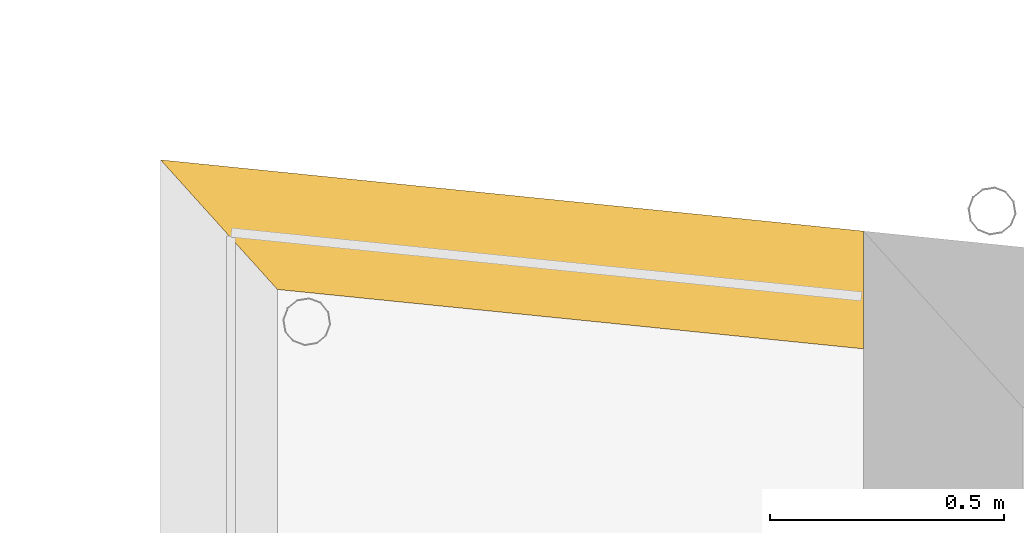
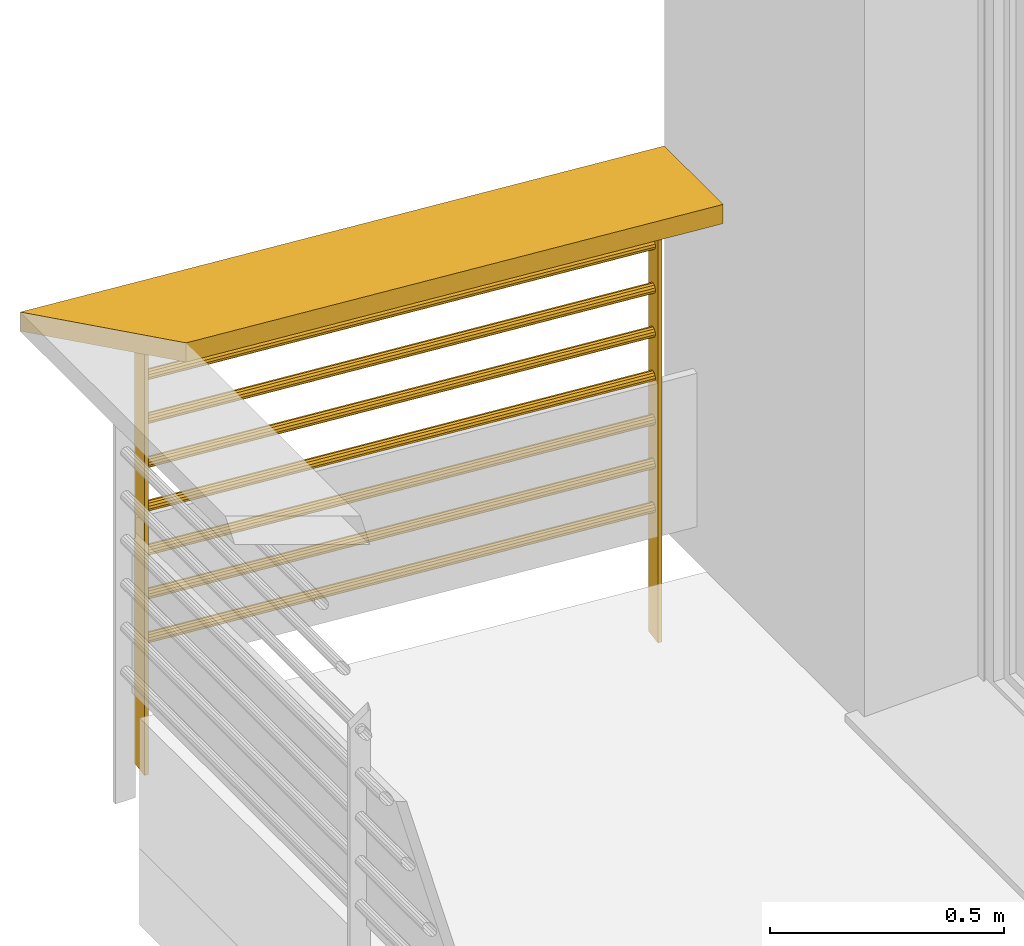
# One storey, part 120 of 171: 1 railing.
"""IFC2X3 building model written with IfcOpenShell, lengths in millimetres."""

from ifc_helpers import new_model, entity, si_unit, converted_unit, derived_unit, money_unit, direction, frame, origin_with_axes, place, context, subcontext, project, spatial, faceted_brep, type_object, element, save


model = new_model("IFC2X3")

# Units and contexts
model_context = context("Model", 3, precision=0.01, world=origin_with_axes(), true_north=direction((0.0, 1.0)))
body_context = subcontext(model_context, "Body", "Model", "MODEL_VIEW")
ifc_project = project(units=[si_unit("LENGTHUNIT", "METRE", prefix="MILLI"), si_unit("AREAUNIT", "SQUARE_METRE"), si_unit("VOLUMEUNIT", "CUBIC_METRE"), converted_unit("PLANEANGLEUNIT", "DEGREE", entity("IfcPlaneAngleMeasure", 0.0174532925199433), si_unit("PLANEANGLEUNIT", "RADIAN"), dimensions=[0, 0, 0, 0, 0, 0, 0]), money_unit("USD"), converted_unit("TIMEUNIT", "Year", entity("IfcTimeMeasure", 31557600.0), si_unit("TIMEUNIT", "SECOND"), dimensions=[0, 0, 1, 0, 0, 0, 0]), si_unit("MASSUNIT", "GRAM", prefix="KILO"), si_unit("THERMODYNAMICTEMPERATUREUNIT", "DEGREE_CELSIUS"), si_unit("LUMINOUSINTENSITYUNIT", "LUMEN"), si_unit("ENERGYUNIT", "JOULE", prefix="MEGA"), derived_unit("THERMALCONDUCTANCEUNIT", [(si_unit("POWERUNIT", "WATT"), 1), (si_unit("LENGTHUNIT", "METRE"), -1), (si_unit("THERMODYNAMICTEMPERATUREUNIT", "KELVIN"), -1)]), derived_unit("SPECIFICHEATCAPACITYUNIT", [(si_unit("ENERGYUNIT", "JOULE"), 1), (si_unit("MASSUNIT", "GRAM", prefix="KILO"), -1), (si_unit("THERMODYNAMICTEMPERATUREUNIT", "KELVIN"), -1)]), derived_unit("MASSDENSITYUNIT", [(si_unit("MASSUNIT", "GRAM", prefix="KILO"), 1), (si_unit("VOLUMEUNIT", "CUBIC_METRE"), -1)])], contexts=[model_context])

# Site, building, storey
site_placement = place(None, origin_with_axes())
site = spatial("IfcSite", under=ifc_project, at=site_placement, Name="Site", CompositionType="ELEMENT")
building_placement = place(site_placement, origin_with_axes())
building = spatial("IfcBuilding", under=site, at=building_placement, Name="Bâtiment", CompositionType="ELEMENT")
storey_placement = place(building_placement, frame((0.0, 0.0, 3000.0), z_axis=(0.0, 0.0, 1.0), x_axis=(1.0, 0.0, 0.0)))
storey = spatial("IfcBuildingStorey", under=building, at=storey_placement, Name="rdc", CompositionType="ELEMENT", Elevation=3000.0)

# Railing
railing_type = type_object("IfcRailingType", Name="Cadre avec câble 01 20", PredefinedType="NOTDEFINED")
railing_placement = place(storey_placement, frame((2218134.233344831, -604121.1147362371, 0.0), z_axis=(0.0, 0.0, 1.0), x_axis=(0.9949030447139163, -0.1008361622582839, 0.0)))
element("IfcRailing", 1, at=railing_placement, inside=storey, type_object=railing_type, Name="Obj.-002", PredefinedType="NOTDEFINED", context=body_context, shape_type="Brep", body=[
    faceted_brep([(-1244.140233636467, -125.0, 950.0), (-1519.948213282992, 125.0, 950.0), (-12.66909408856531, 125.0, 950.0), (12.66909408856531, -125.0, 950.0), (-1244.140233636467, -125.0, 1000.0), (-1519.948213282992, 125.0, 1000.0), (-12.66909408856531, 125.0, 1000.0), (12.66909408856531, -125.0, 1000.0)], [[[0, 1, 2, 3]], [[1, 0, 4, 5]], [[1, 5, 6, 2]], [[2, 6, 7, 3]], [[0, 3, 7, 4]], [[5, 4, 7, 6]]]),
    faceted_brep([(-84.99999999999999, -25.0, -176.0), (-84.99999999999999, -25.0, 950.0), (-95.0, -25.0, 950.0), (-95.0, -25.0, -176.0), (-84.99999999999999, 25.0, -176.0), (-84.99999999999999, 25.0, 950.0), (-95.0, 25.0, 950.0), (-95.0, 25.0, -176.0)], [[[0, 1, 2, 3]], [[4, 5, 1, 0]], [[1, 5, 6, 2]], [[3, 2, 6, 7]], [[0, 3, 7, 4]], [[7, 6, 5, 4]]]),
    faceted_brep([(-1287.04422345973, -25.0, -176.0), (-1287.04422345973, -25.0, 950.0), (-1297.044223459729, -25.0, 950.0), (-1297.044223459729, -25.0, -176.0), (-1287.04422345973, 25.0, -176.0), (-1287.04422345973, 25.0, 950.0), (-1297.044223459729, 25.0, 950.0), (-1297.044223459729, 25.0, -176.0)], [[[0, 1, 2, 3]], [[4, 5, 1, 0]], [[1, 5, 6, 2]], [[3, 2, 6, 7]], [[0, 3, 7, 4]], [[7, 6, 5, 4]]]),
    faceted_brep([(-95.0, 10.82531754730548, 156.25), (-1287.04422345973, 10.82531754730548, 156.2500000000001), (-1287.04422345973, 12.5, 162.5000000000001), (-95.0, 12.5, 162.5), (-95.0, 6.249999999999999, 151.6746824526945), (-1287.04422345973, 6.249999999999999, 151.6746824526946), (-1287.04422345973, 0.0, 150.0000000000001), (-1287.04422345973, -6.250000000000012, 151.6746824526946), (-1287.04422345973, -10.82531754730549, 156.2500000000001), (-1287.04422345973, -12.5, 162.5000000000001), (-1287.04422345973, -10.82531754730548, 168.7500000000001), (-1287.04422345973, -6.249999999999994, 173.3253175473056), (-1287.04422345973, 0.0, 175.0000000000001), (-1287.04422345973, 6.250000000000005, 173.3253175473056), (-1287.04422345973, 10.82531754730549, 168.7500000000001), (-95.0, 10.82531754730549, 168.75), (-95.0, 6.250000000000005, 173.3253175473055), (-95.0, 0.0, 175.0), (-95.0, -6.249999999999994, 173.3253175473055), (-95.0, -10.82531754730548, 168.75), (-95.0, -12.5, 162.5), (-95.0, -10.82531754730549, 156.25), (-95.0, -6.250000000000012, 151.6746824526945), (-95.0, 0.0, 150.0)], [[[0, 1, 2, 3]], [[4, 5, 1, 0]], [[1, 5, 6, 7, 8, 9, 10, 11, 12, 13, 14, 2]], [[3, 2, 14, 15]], [[15, 16, 17, 18, 19, 20, 21, 22, 23, 4, 0, 3]], [[23, 6, 5, 4]], [[22, 7, 6, 23]], [[21, 8, 7, 22]], [[20, 9, 8, 21]], [[19, 10, 9, 20]], [[18, 11, 10, 19]], [[17, 12, 11, 18]], [[16, 13, 12, 17]], [[15, 14, 13, 16]]]),
    faceted_brep([(-95.0, 10.82531754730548, 270.5357142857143), (-1287.04422345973, 10.82531754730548, 270.5357142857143), (-1287.04422345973, 12.5, 276.7857142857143), (-95.0, 12.5, 276.7857142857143), (-95.0, 6.249999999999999, 265.9603967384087), (-1287.04422345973, 6.249999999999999, 265.9603967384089), (-1287.04422345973, 0.0, 264.2857142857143), (-1287.04422345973, -6.250000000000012, 265.9603967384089), (-1287.04422345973, -10.82531754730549, 270.5357142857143), (-1287.04422345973, -12.5, 276.7857142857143), (-1287.04422345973, -10.82531754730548, 283.0357142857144), (-1287.04422345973, -6.249999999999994, 287.6110318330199), (-1287.04422345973, 0.0, 289.2857142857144), (-1287.04422345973, 6.250000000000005, 287.6110318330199), (-1287.04422345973, 10.82531754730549, 283.0357142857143), (-95.0, 10.82531754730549, 283.0357142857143), (-95.0, 6.250000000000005, 287.6110318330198), (-95.0, 0.0, 289.2857142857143), (-95.0, -6.249999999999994, 287.6110318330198), (-95.0, -10.82531754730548, 283.0357142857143), (-95.0, -12.5, 276.7857142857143), (-95.0, -10.82531754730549, 270.5357142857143), (-95.0, -6.250000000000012, 265.9603967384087), (-95.0, 0.0, 264.2857142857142)], [[[0, 1, 2, 3]], [[4, 5, 1, 0]], [[1, 5, 6, 7, 8, 9, 10, 11, 12, 13, 14, 2]], [[3, 2, 14, 15]], [[15, 16, 17, 18, 19, 20, 21, 22, 23, 4, 0, 3]], [[23, 6, 5, 4]], [[22, 7, 6, 23]], [[21, 8, 7, 22]], [[20, 9, 8, 21]], [[19, 10, 9, 20]], [[18, 11, 10, 19]], [[17, 12, 11, 18]], [[16, 13, 12, 17]], [[15, 14, 13, 16]]]),
    faceted_brep([(-95.0, 10.82531754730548, 384.8214285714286), (-1287.04422345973, 10.82531754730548, 384.8214285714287), (-1287.04422345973, 12.5, 391.0714285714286), (-95.0, 12.5, 391.0714285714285), (-95.0, 6.249999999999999, 380.2461110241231), (-1287.04422345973, 6.249999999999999, 380.2461110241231), (-1287.04422345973, 0.0, 378.5714285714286), (-1287.04422345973, -6.250000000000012, 380.2461110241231), (-1287.04422345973, -10.82531754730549, 384.8214285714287), (-1287.04422345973, -12.5, 391.0714285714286), (-1287.04422345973, -10.82531754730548, 397.3214285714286), (-1287.04422345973, -6.249999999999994, 401.8967461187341), (-1287.04422345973, 0.0, 403.5714285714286), (-1287.04422345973, 6.250000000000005, 401.8967461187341), (-1287.04422345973, 10.82531754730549, 397.3214285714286), (-95.0, 10.82531754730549, 397.3214285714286), (-95.0, 6.250000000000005, 401.896746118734), (-95.0, 0.0, 403.5714285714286), (-95.0, -6.249999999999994, 401.896746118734), (-95.0, -10.82531754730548, 397.3214285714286), (-95.0, -12.5, 391.0714285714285), (-95.0, -10.82531754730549, 384.8214285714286), (-95.0, -6.250000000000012, 380.2461110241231), (-95.0, 0.0, 378.5714285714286)], [[[0, 1, 2, 3]], [[4, 5, 1, 0]], [[1, 5, 6, 7, 8, 9, 10, 11, 12, 13, 14, 2]], [[3, 2, 14, 15]], [[15, 16, 17, 18, 19, 20, 21, 22, 23, 4, 0, 3]], [[23, 6, 5, 4]], [[22, 7, 6, 23]], [[21, 8, 7, 22]], [[20, 9, 8, 21]], [[19, 10, 9, 20]], [[18, 11, 10, 19]], [[17, 12, 11, 18]], [[16, 13, 12, 17]], [[15, 14, 13, 16]]]),
    faceted_brep([(-95.0, 10.82531754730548, 499.1071428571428), (-1287.04422345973, 10.82531754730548, 499.1071428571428), (-1287.04422345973, 12.5, 505.3571428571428), (-95.0, 12.5, 505.3571428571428), (-95.0, 6.249999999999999, 494.5318253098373), (-1287.04422345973, 6.249999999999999, 494.5318253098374), (-1287.04422345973, 0.0, 492.8571428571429), (-1287.04422345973, -6.250000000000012, 494.5318253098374), (-1287.04422345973, -10.82531754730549, 499.1071428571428), (-1287.04422345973, -12.5, 505.3571428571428), (-1287.04422345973, -10.82531754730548, 511.6071428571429), (-1287.04422345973, -6.249999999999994, 516.1824604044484), (-1287.04422345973, 0.0, 517.8571428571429), (-1287.04422345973, 6.250000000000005, 516.1824604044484), (-1287.04422345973, 10.82531754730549, 511.6071428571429), (-95.0, 10.82531754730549, 511.6071428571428), (-95.0, 6.250000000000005, 516.1824604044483), (-95.0, 0.0, 517.8571428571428), (-95.0, -6.249999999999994, 516.1824604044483), (-95.0, -10.82531754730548, 511.6071428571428), (-95.0, -12.5, 505.3571428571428), (-95.0, -10.82531754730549, 499.1071428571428), (-95.0, -6.250000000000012, 494.5318253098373), (-95.0, 0.0, 492.8571428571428)], [[[0, 1, 2, 3]], [[4, 5, 1, 0]], [[1, 5, 6, 7, 8, 9, 10, 11, 12, 13, 14, 2]], [[3, 2, 14, 15]], [[15, 16, 17, 18, 19, 20, 21, 22, 23, 4, 0, 3]], [[23, 6, 5, 4]], [[22, 7, 6, 23]], [[21, 8, 7, 22]], [[20, 9, 8, 21]], [[19, 10, 9, 20]], [[18, 11, 10, 19]], [[17, 12, 11, 18]], [[16, 13, 12, 17]], [[15, 14, 13, 16]]]),
    faceted_brep([(-95.0, 10.82531754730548, 613.3928571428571), (-1287.04422345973, 10.82531754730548, 613.3928571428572), (-1287.04422345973, 12.5, 619.6428571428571), (-95.0, 12.5, 619.642857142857), (-95.0, 6.249999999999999, 608.8175395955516), (-1287.04422345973, 6.249999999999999, 608.8175395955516), (-1287.04422345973, 0.0, 607.1428571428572), (-1287.04422345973, -6.250000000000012, 608.8175395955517), (-1287.04422345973, -10.82531754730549, 613.3928571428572), (-1287.04422345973, -12.5, 619.6428571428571), (-1287.04422345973, -10.82531754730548, 625.8928571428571), (-1287.04422345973, -6.249999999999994, 630.4681746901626), (-1287.04422345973, 0.0, 632.1428571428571), (-1287.04422345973, 6.250000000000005, 630.4681746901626), (-1287.04422345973, 10.82531754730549, 625.8928571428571), (-95.0, 10.82531754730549, 625.892857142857), (-95.0, 6.250000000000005, 630.4681746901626), (-95.0, 0.0, 632.1428571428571), (-95.0, -6.249999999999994, 630.4681746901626), (-95.0, -10.82531754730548, 625.892857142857), (-95.0, -12.5, 619.642857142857), (-95.0, -10.82531754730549, 613.3928571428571), (-95.0, -6.250000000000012, 608.8175395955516), (-95.0, 0.0, 607.1428571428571)], [[[0, 1, 2, 3]], [[4, 5, 1, 0]], [[1, 5, 6, 7, 8, 9, 10, 11, 12, 13, 14, 2]], [[3, 2, 14, 15]], [[15, 16, 17, 18, 19, 20, 21, 22, 23, 4, 0, 3]], [[23, 6, 5, 4]], [[22, 7, 6, 23]], [[21, 8, 7, 22]], [[20, 9, 8, 21]], [[19, 10, 9, 20]], [[18, 11, 10, 19]], [[17, 12, 11, 18]], [[16, 13, 12, 17]], [[15, 14, 13, 16]]]),
    faceted_brep([(-95.0, 10.82531754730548, 727.6785714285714), (-1287.04422345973, 10.82531754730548, 727.6785714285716), (-1287.04422345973, 12.5, 733.9285714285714), (-95.0, 12.5, 733.9285714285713), (-95.0, 6.249999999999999, 723.1032538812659), (-1287.04422345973, 6.249999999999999, 723.1032538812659), (-1287.04422345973, 0.0, 721.4285714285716), (-1287.04422345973, -6.250000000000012, 723.103253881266), (-1287.04422345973, -10.82531754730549, 727.6785714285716), (-1287.04422345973, -12.5, 733.9285714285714), (-1287.04422345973, -10.82531754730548, 740.1785714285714), (-1287.04422345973, -6.249999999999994, 744.7538889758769), (-1287.04422345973, 0.0, 746.4285714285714), (-1287.04422345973, 6.250000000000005, 744.7538889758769), (-1287.04422345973, 10.82531754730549, 740.1785714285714), (-95.0, 10.82531754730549, 740.1785714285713), (-95.0, 6.250000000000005, 744.7538889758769), (-95.0, 0.0, 746.4285714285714), (-95.0, -6.249999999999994, 744.7538889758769), (-95.0, -10.82531754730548, 740.1785714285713), (-95.0, -12.5, 733.9285714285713), (-95.0, -10.82531754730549, 727.6785714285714), (-95.0, -6.250000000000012, 723.1032538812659), (-95.0, 0.0, 721.4285714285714)], [[[0, 1, 2, 3]], [[4, 5, 1, 0]], [[1, 5, 6, 7, 8, 9, 10, 11, 12, 13, 14, 2]], [[3, 2, 14, 15]], [[15, 16, 17, 18, 19, 20, 21, 22, 23, 4, 0, 3]], [[23, 6, 5, 4]], [[22, 7, 6, 23]], [[21, 8, 7, 22]], [[20, 9, 8, 21]], [[19, 10, 9, 20]], [[18, 11, 10, 19]], [[17, 12, 11, 18]], [[16, 13, 12, 17]], [[15, 14, 13, 16]]]),
    faceted_brep([(-95.0, 10.82531754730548, 841.9642857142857), (-1287.04422345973, 10.82531754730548, 841.9642857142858), (-1287.04422345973, 12.5, 848.2142857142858), (-95.0, 12.5, 848.2142857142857), (-95.0, 6.249999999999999, 837.3889681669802), (-1287.04422345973, 6.249999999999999, 837.3889681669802), (-1287.04422345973, 0.0, 835.7142857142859), (-1287.04422345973, -6.250000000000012, 837.3889681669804), (-1287.04422345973, -10.82531754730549, 841.9642857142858), (-1287.04422345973, -12.5, 848.2142857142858), (-1287.04422345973, -10.82531754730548, 854.4642857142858), (-1287.04422345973, -6.249999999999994, 859.0396032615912), (-1287.04422345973, 0.0, 860.7142857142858), (-1287.04422345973, 6.250000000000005, 859.0396032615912), (-1287.04422345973, 10.82531754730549, 854.4642857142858), (-95.0, 10.82531754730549, 854.4642857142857), (-95.0, 6.250000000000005, 859.0396032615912), (-95.0, 0.0, 860.7142857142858), (-95.0, -6.249999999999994, 859.0396032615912), (-95.0, -10.82531754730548, 854.4642857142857), (-95.0, -12.5, 848.2142857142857), (-95.0, -10.82531754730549, 841.9642857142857), (-95.0, -6.250000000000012, 837.3889681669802), (-95.0, 0.0, 835.7142857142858)], [[[0, 1, 2, 3]], [[4, 5, 1, 0]], [[1, 5, 6, 7, 8, 9, 10, 11, 12, 13, 14, 2]], [[3, 2, 14, 15]], [[15, 16, 17, 18, 19, 20, 21, 22, 23, 4, 0, 3]], [[23, 6, 5, 4]], [[22, 7, 6, 23]], [[21, 8, 7, 22]], [[20, 9, 8, 21]], [[19, 10, 9, 20]], [[18, 11, 10, 19]], [[17, 12, 11, 18]], [[16, 13, 12, 17]], [[15, 14, 13, 16]]]),
])

save(model, "model.ifc")
